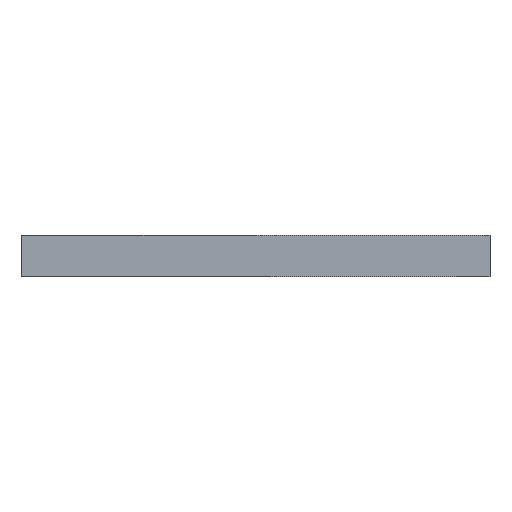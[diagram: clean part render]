
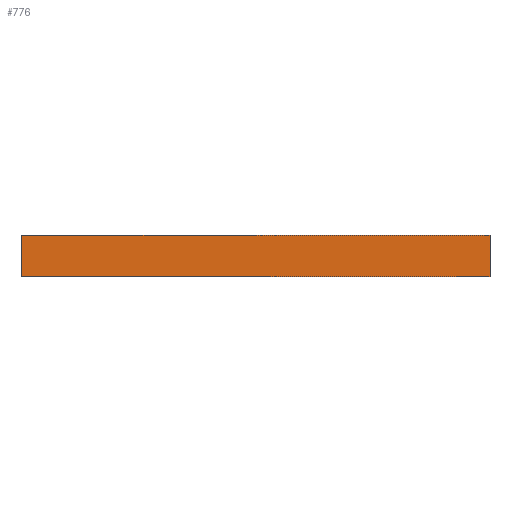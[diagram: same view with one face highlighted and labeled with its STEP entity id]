
A CAD part, front view. The second image highlights one B-rep face of the part: STEP entity #776.
In plain terms, the highlighted planar face has unit normal (0, -1, 0).
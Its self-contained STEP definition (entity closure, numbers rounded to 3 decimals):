
#776=ADVANCED_FACE('',(#1160),#3904,.T.);
#1160=FACE_OUTER_BOUND('',#1756,.F.);
#1756=EDGE_LOOP('',(#2383,#2384,#2385,#2386));
#2383=ORIENTED_EDGE('',*,*,#7209,.F.);
#2384=ORIENTED_EDGE('',*,*,#7194,.F.);
#2385=ORIENTED_EDGE('',*,*,#7127,.T.);
#2386=ORIENTED_EDGE('',*,*,#7251,.T.);
#3904=PLANE('',#9372);
#6429=LINE('',#12522,#6759);
#6440=LINE('',#12589,#6770);
#6441=LINE('',#12604,#6771);
#6445=LINE('',#12646,#6775);
#6759=VECTOR('',#9989,135.);
#6770=VECTOR('',#10112,12.);
#6771=VECTOR('',#10141,135.);
#6775=VECTOR('',#10221,12.);
#7127=EDGE_CURVE('',#8809,#8802,#6429,.T.);
#7194=EDGE_CURVE('',#8809,#8738,#6440,.T.);
#7209=EDGE_CURVE('',#8738,#8723,#6441,.T.);
#7251=EDGE_CURVE('',#8802,#8723,#6445,.T.);
#8723=VERTEX_POINT('',#12352);
#8738=VERTEX_POINT('',#12367);
#8802=VERTEX_POINT('',#12431);
#8809=VERTEX_POINT('',#12438);
#9372=AXIS2_PLACEMENT_3D('',#13091,#10905,#10906);
#9989=DIRECTION('',(1.,0.,0.));
#10112=DIRECTION('',(0.,0.,-1.));
#10141=DIRECTION('',(1.,0.,0.));
#10221=DIRECTION('',(0.,0.,-1.));
#10905=DIRECTION('',(0.,-1.,0.));
#10906=DIRECTION('',(1.,0.,0.));
#12352=CARTESIAN_POINT('',(35.,-14.2,148.8));
#12367=CARTESIAN_POINT('',(-100.,-14.2,148.8));
#12431=CARTESIAN_POINT('',(35.,-14.2,160.8));
#12438=CARTESIAN_POINT('',(-100.,-14.2,160.8));
#12522=CARTESIAN_POINT('',(-100.,-14.2,160.8));
#12589=CARTESIAN_POINT('',(-100.,-14.2,160.8));
#12604=CARTESIAN_POINT('',(-100.,-14.2,148.8));
#12646=CARTESIAN_POINT('',(35.,-14.2,160.8));
#13091=CARTESIAN_POINT('',(-101.35,-14.2,147.45));
